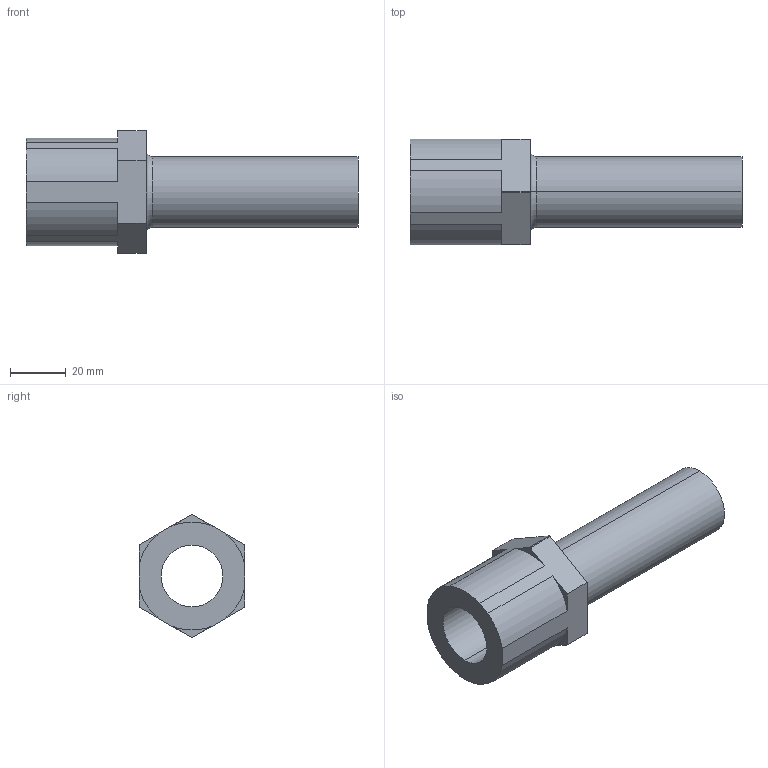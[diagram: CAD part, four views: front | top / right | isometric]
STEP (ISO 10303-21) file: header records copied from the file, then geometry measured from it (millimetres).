
FILE_DESCRIPTION (( 'STEP AP214' ), '1' );
FILE_NAME ('16-tube-out.STEP', '2012-12-03T19:06:27', ( '' ), ( '' ), 'SwSTEP 2.0', 'SolidWorks 2012', '' );
FILE_SCHEMA (( 'AUTOMOTIVE_DESIGN' ));
Length unit declared in the file: inch
Products named in the file (1): 16-tube-out
Bounding box: 119.38 x 38.05 x 44.2 mm (x, y, z)
Volume: 44165.3 mm3; surface area: 21475.2 mm2
Topology: 1 solids, 1 shells, 31 faces, 82 edges, 54 vertices
Faces by surface type: plane 15, cylinder 14, torus 2
Entity records: 1120 total; most frequent: DIRECTION 178, CARTESIAN_POINT 168, ORIENTED_EDGE 164, EDGE_CURVE 82, AXIS2_PLACEMENT_3D 64, VERTEX_POINT 54, LINE 50, VECTOR 50
